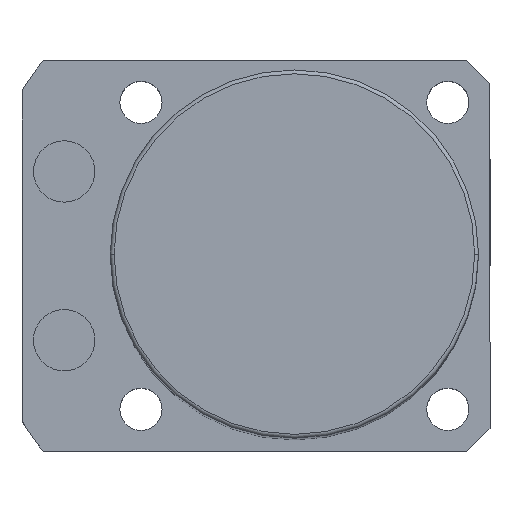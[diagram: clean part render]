
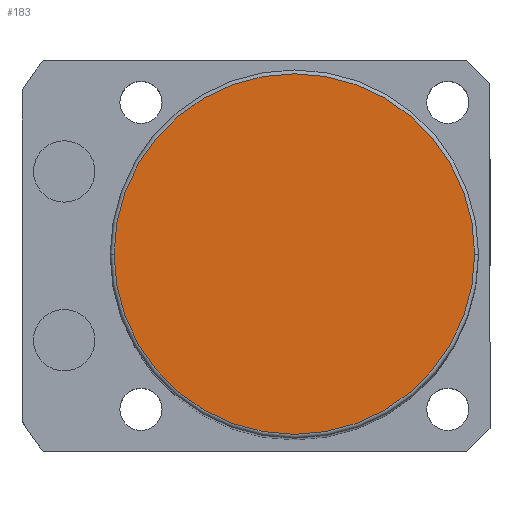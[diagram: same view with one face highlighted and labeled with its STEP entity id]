
A CAD part, top view. The second image highlights one B-rep face of the part: STEP entity #183.
In plain terms, the highlighted planar face has unit normal (0, 0, 1).
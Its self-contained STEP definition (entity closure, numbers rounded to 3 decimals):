
#41 = DIRECTION ( 'NONE',  ( 0., 0., 1. ) ) ;
#183 = ADVANCED_FACE ( 'NONE', ( #1517 ), #1681, .T. ) ;
#256 = CIRCLE ( 'NONE', #1180, 23.5 ) ;
#348 = EDGE_LOOP ( 'NONE', ( #404, #901 ) ) ;
#404 = ORIENTED_EDGE ( 'NONE', *, *, #2216, .T. ) ;
#715 = CARTESIAN_POINT ( 'NONE',  ( 0., 0., 146. ) ) ;
#822 = CARTESIAN_POINT ( 'NONE',  ( 0., 0., 146. ) ) ;
#841 = DIRECTION ( 'NONE',  ( 1., 0., 0. ) ) ;
#901 = ORIENTED_EDGE ( 'NONE', *, *, #1931, .T. ) ;
#1009 = CARTESIAN_POINT ( 'NONE',  ( 0., 0., 146. ) ) ;
#1180 = AXIS2_PLACEMENT_3D ( 'NONE', #822, #41, #841 ) ;
#1335 = AXIS2_PLACEMENT_3D ( 'NONE', #1009, #1631, #2361 ) ;
#1407 = VERTEX_POINT ( 'NONE', #2205 ) ;
#1441 = CARTESIAN_POINT ( 'NONE',  ( 23.5, 0., 146. ) ) ;
#1517 = FACE_OUTER_BOUND ( 'NONE', #348, .T. ) ;
#1528 = DIRECTION ( 'NONE',  ( 0., 0., 1. ) ) ;
#1631 = DIRECTION ( 'NONE',  ( 0., 0., 1. ) ) ;
#1681 = PLANE ( 'NONE',  #1968 ) ;
#1719 = DIRECTION ( 'NONE',  ( 1., 0., 0. ) ) ;
#1931 = EDGE_CURVE ( 'NONE', #1407, #2036, #256, .T. ) ;
#1968 = AXIS2_PLACEMENT_3D ( 'NONE', #715, #1528, #1719 ) ;
#2036 = VERTEX_POINT ( 'NONE', #1441 ) ;
#2205 = CARTESIAN_POINT ( 'NONE',  ( -23.5, 0., 146. ) ) ;
#2216 = EDGE_CURVE ( 'NONE', #2036, #1407, #2326, .T. ) ;
#2326 = CIRCLE ( 'NONE', #1335, 23.5 ) ;
#2361 = DIRECTION ( 'NONE',  ( 1., 0., 0. ) ) ;
